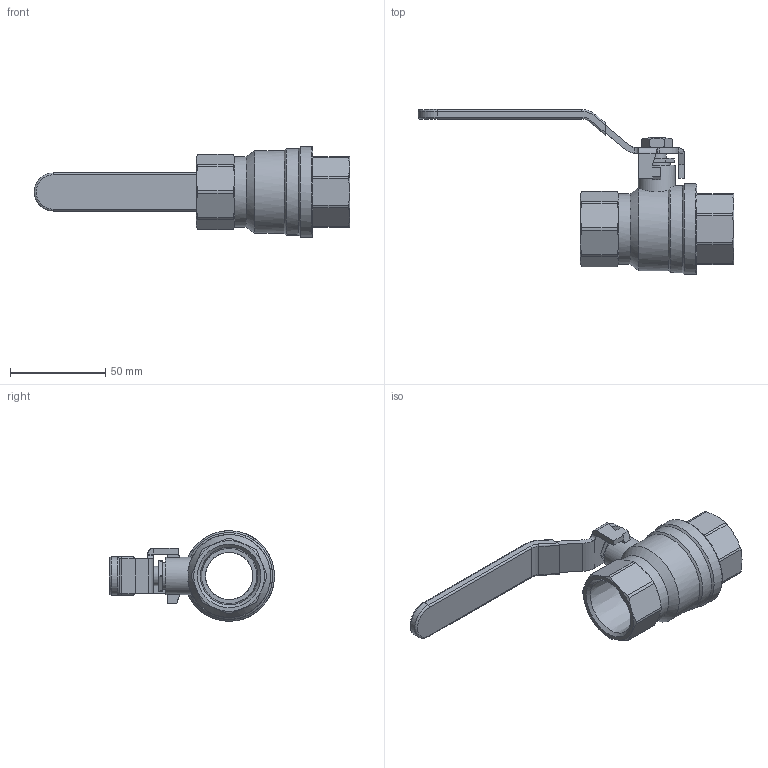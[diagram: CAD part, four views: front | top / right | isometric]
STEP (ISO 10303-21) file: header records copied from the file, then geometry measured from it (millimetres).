
FILE_DESCRIPTION((''),'2;1');
FILE_NAME('P:\Fastrack\53972_CRANE 3D\Fig100YL\100YL-1\100YL-1.stp','2011-01-27T14:53:47',('btaylor'),(''),'Autodesk Inventor 2008','Autodesk Inventor 2008','');
FILE_SCHEMA(('AUTOMOTIVE_DESIGN { 1 0 10303 214 1 1 1 1 }'));
Length unit declared in the file: millimetre
Products named in the file (1): 100YL-1
Bounding box: 165.4 x 86.46 x 47.5 mm (x, y, z)
Volume: 81620.8 mm3; surface area: 47359.6 mm2
Topology: 7 solids, 8 shells, 1527 faces, 4046 edges, 2677 vertices
Faces by surface type: plane 815, bspline 531, cylinder 92, cone 71, torus 15, sphere 3
Full cylindrical faces by diameter (mm): 10 x1, 10.1 x2, 10.3 x1, 11 x1, 11.5 x1, 14 x1, 14.3 x1, 14.5 x1, 19.5 x1, 21.7 x1, 24.8 x3, 32 x2, 33 x4, 36.5 x1, 37 x1, 39.5 x1, 41 x1, 41.2 x1, 45.5 x1, 47.5 x1
Entity records: 108352 total; most frequent: CARTESIAN_POINT 72925, ORIENTED_EDGE 7896, DIRECTION 5035, EDGE_CURVE 3948, VERTEX_POINT 2641, VECTOR 2459, LINE 2459, EDGE_LOOP 1761
